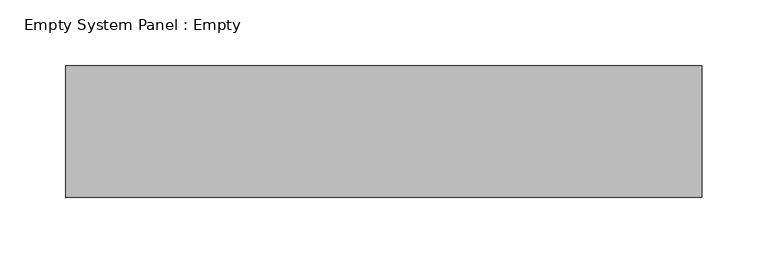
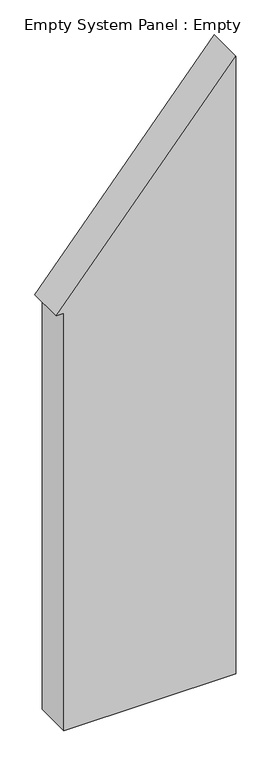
"""IFC4 building model written with IfcOpenShell, lengths in millimetres: plate geometry, Empty System Panel : Empty."""

from ifc_helpers import new_model, si_unit, frame, origin, place, context, project, spatial, polyline, outline, extrude, source, transform, mapped, element, save


def empty_system_panel_empty_348e4c9a(model_context):
    return source(origin(), model_context, "Body", "SweptSolid", [
        extrude(outline(polyline([(0.0, -221.7466691), (0.0, 241.7466691), (1757.4781982, 241.7466691), (1187.3739416, -241.7466691), (1187.3739416, -221.7466691), (0.0, -221.7466691)])), frame((0.0, -50.0, 0.0), z_axis=(0.0, 1.0, 0.0), x_axis=(0.0, 0.0, 1.0)), (0.0, 0.0, 1.0), 100.0),
    ])


if __name__ == "__main__":
    model = new_model("IFC4")
    model_context = context("Model", 3, world=origin())
    ifc_project = project(units=[si_unit("LENGTHUNIT", "METRE", prefix="MILLI")], contexts=[model_context])
    site = spatial("IfcSite", under=ifc_project)
    building = spatial("IfcBuilding", under=site)
    placement = place(None, origin())
    empty_system_panel_empty_shape = empty_system_panel_empty_348e4c9a(model_context)
    element("IfcPlate", 1, ObjectType="Empty System Panel : Empty", at=placement, inside=building, context=model_context, shape_type="MappedRepresentation", body=[
        mapped(empty_system_panel_empty_shape, transform((0.0, 0.0, 0.0), x_axis=(1.0, 0.0, 0.0), y_axis=(0.0, 1.0, 0.0), z_axis=(0.0, 0.0, 1.0))),
    ])
    save(model, "model.ifc")
